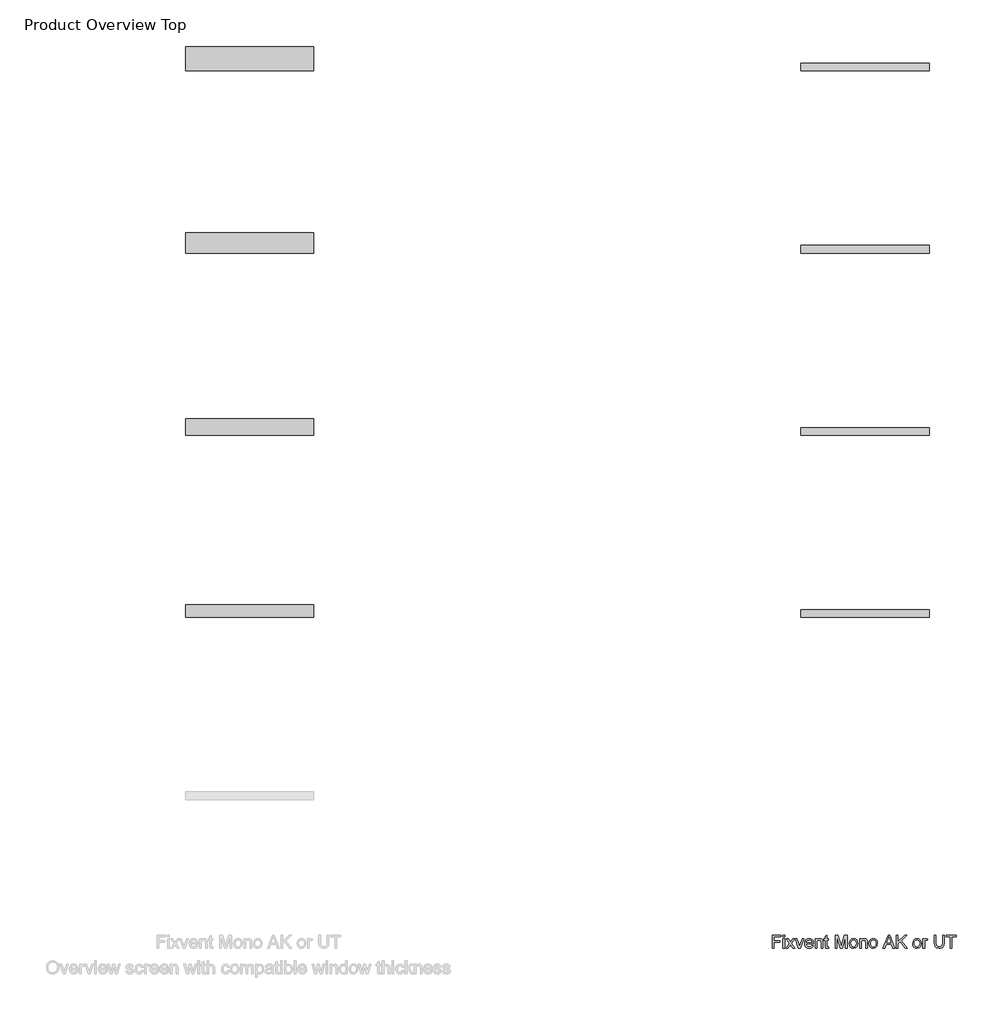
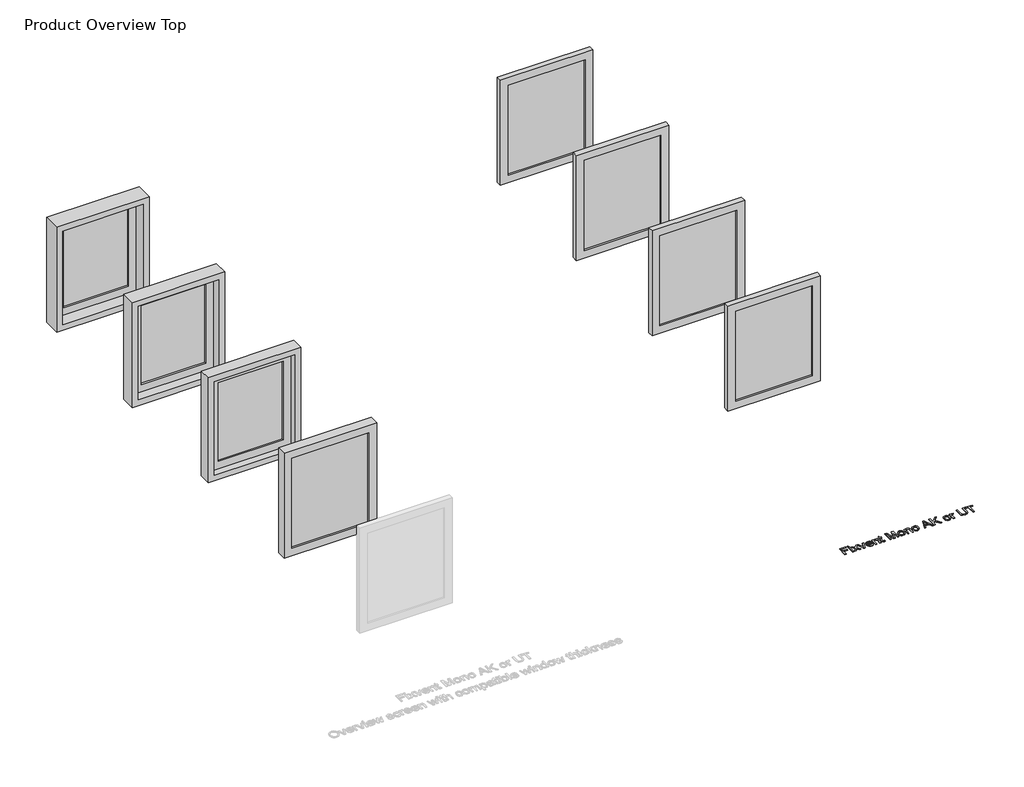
# One storey, part 3 of 3: 9 proxies.
"""IFC4 building model written with IfcOpenShell, lengths in millimetres."""

from ifc_helpers import new_model, si_unit, origin, origin_with_axes, place, context, project, spatial, polyline, outline, extrude, transform, mapped, element, save
from components import generic_models_217476fc, generic_models_e17e140e, generic_models_749d0f3b, generic_models_d7281dfd, l_40027175

model = new_model("IFC4")

# Units and contexts
model_context = context("Model", 3, world=origin())
ifc_project = project(units=[si_unit("LENGTHUNIT", "METRE", prefix="MILLI")], contexts=[model_context])

# Site, building, storey
site = spatial("IfcSite", under=ifc_project)
building = spatial("IfcBuilding", under=site)
storey = spatial("IfcBuildingStorey", under=building, Name="Product Overview Top", Elevation=0.0)

# Proxies
placement = place(None, origin())
generic_models_shape = generic_models_217476fc(model_context)
element("IfcBuildingElementProxy", 1, Name="Renson_Fixvent_Window_SimpleFrame_Gen - M : Renson_Fixvent_Window_SimpleFrame_Gen", ObjectType="Renson_Fixvent_Window_SimpleFrame_Gen - M : Renson_Fixvent_Window_SimpleFrame_Gen", at=placement, inside=storey, context=model_context, shape_type="MappedRepresentation", body=[
    mapped(generic_models_shape, transform((-2721.5461115, 54.0054477, -855.0), x_axis=(1.0, 0.0, 0.0), y_axis=(0.0, 1.0, 0.0), z_axis=(0.0, 0.0, 1.0))),
])
generic_models_2_shape = generic_models_e17e140e(model_context)
element("IfcBuildingElementProxy", 2, Name="Renson_Fixvent_Window_SimpleFrame_Gen - L : Renson_Fixvent_Window_SimpleFrame_Gen", ObjectType="Renson_Fixvent_Window_SimpleFrame_Gen - L : Renson_Fixvent_Window_SimpleFrame_Gen", at=placement, inside=storey, context=model_context, shape_type="MappedRepresentation", body=[
    mapped(generic_models_2_shape, transform((-2721.5461115, 1473.859272, -855.0), x_axis=(1.0, 0.0, 0.0), y_axis=(0.0, 1.0, 0.0), z_axis=(0.0, 0.0, 1.0))),
])
generic_models_3_shape = generic_models_749d0f3b(model_context)
element("IfcBuildingElementProxy", 3, Name="Renson_Fixvent_Window_SimpleFrame_Gen - XL : Renson_Fixvent_Window_SimpleFrame_Gen", ObjectType="Renson_Fixvent_Window_SimpleFrame_Gen - XL : Renson_Fixvent_Window_SimpleFrame_Gen", at=placement, inside=storey, context=model_context, shape_type="MappedRepresentation", body=[
    mapped(generic_models_3_shape, transform((-2721.5461115, 2893.7130963, -855.0), x_axis=(1.0, 0.0, 0.0), y_axis=(0.0, 1.0, 0.0), z_axis=(0.0, 0.0, 1.0))),
])
generic_models_4_shape = generic_models_d7281dfd(model_context)
element("IfcBuildingElementProxy", 4, Name="Renson_Fixvent_Window_SimpleFrame_Gen - XXL : Renson_Fixvent_Window_SimpleFrame_Gen", ObjectType="Renson_Fixvent_Window_SimpleFrame_Gen - XXL : Renson_Fixvent_Window_SimpleFrame_Gen", at=placement, inside=storey, context=model_context, shape_type="MappedRepresentation", body=[
    mapped(generic_models_4_shape, transform((-2721.5461115, 4313.5669207, -855.0), x_axis=(1.0, 0.0, 0.0), y_axis=(0.0, 1.0, 0.0), z_axis=(0.0, 0.0, 1.0))),
])
element("IfcBuildingElementProxy", 5, Name="100mm Arial", ObjectType="100mm Arial", at=placement, inside=storey, context=model_context, shape_type="SweptSolid", body=[
    extrude(outline(polyline([(1355.7427225, -2523.9021098), (1355.7427225, -2423.4457997), (1423.2368059, -2423.4457997), (1423.2368059, -2436.0028384), (1368.2997613, -2436.0028384), (1368.2997613, -2465.8258055), (1415.3886567, -2465.8258055), (1415.3886567, -2478.3828443), (1368.2997613, -2478.3828443), (1368.2997613, -2523.9021098), (1355.7427225, -2523.9021098)])), origin_with_axes(), (0.0, 0.0, 1.0), 5.0),
    extrude(outline(polyline([(1438.9331044, -2523.9021098), (1438.9331044, -2450.129507), (1451.4901431, -2450.129507), (1451.4901431, -2523.9021098), (1438.9331044, -2523.9021098)])), origin_with_axes(), (0.0, 0.0, 1.0), 5.0),
    extrude(outline(polyline([(1438.9331044, -2436.0028384), (1438.9331044, -2423.4457997), (1451.4901431, -2423.4457997), (1451.4901431, -2436.0028384), (1438.9331044, -2436.0028384)])), origin_with_axes(), (0.0, 0.0, 1.0), 5.0),
    extrude(outline(polyline([(1462.4775521, -2523.9021098), (1489.3084122, -2486.8196047), (1464.0471819, -2450.129507), (1479.1548692, -2450.129507), (1491.3440259, -2467.7878428), (1497.0339341, -2476.1265014), (1501.9635529, -2469.3084217), (1515.8449668, -2450.129507), (1530.9526541, -2450.129507), (1504.4160995, -2486.8196047), (1529.9716354, -2523.9021098), (1514.8639482, -2523.9021098), (1499.4864808, -2501.6084609), (1496.6660521, -2497.5372335), (1477.5852393, -2523.9021098), (1462.4775521, -2523.9021098)])), origin_with_axes(), (0.0, 0.0, 1.0), 5.0),
    extrude(outline(polyline([(1559.0588385, -2523.9021098), (1533.1108951, -2450.129507), (1546.4036979, -2450.129507), (1562.1245218, -2494.3243974), (1566.8579368, -2509.18683), (1571.49325, -2495.1582633), (1587.3121758, -2450.129507), (1600.6049785, -2450.129507), (1574.9758662, -2523.9021098), (1559.0588385, -2523.9021098)])), origin_with_axes(), (0.0, 0.0, 1.0), 5.0),
    extrude(outline(polyline([(1663.2430196, -2501.927292), (1675.5548037, -2503.4969218), (1671.1187599, -2512.7736795), (1664.0400972, -2519.7082551), (1654.478231, -2524.0308685), (1642.5925769, -2525.4717397), (1627.858903, -2522.9854705), (1616.5220062, -2515.5266631), (1609.293125, -2503.5796953), (1606.8834979, -2487.6289451), (1609.3176504, -2471.1417003), (1616.620108, -2458.8115221), (1627.8037207, -2451.1227884), (1641.8813384, -2448.5598772), (1655.5205633, -2451.1166571), (1666.4190675, -2458.7869967), (1673.5651752, -2471.0926494), (1675.9472111, -2487.5553687), (1675.8736347, -2490.939883), (1619.4405367, -2490.939883), (1621.6141061, -2500.339268), (1626.6632865, -2507.2493182), (1633.9504157, -2511.4983552), (1642.8378316, -2512.9147009), (1655.1496157, -2510.290476), (1663.2430196, -2501.927292)]), holes=[polyline([(1619.4405367, -2478.3828443), (1663.3901724, -2478.3828443), (1658.3624518, -2467.0030279), (1651.0416001, -2462.588444), (1641.8322874, -2461.116916), (1626.3689809, -2465.8135428), (1621.5037415, -2471.3041816), (1619.4405367, -2478.3828443)])]), origin_with_axes(), (0.0, 0.0, 1.0), 5.0),
    extrude(outline(polyline([(1688.5042499, -2523.9021098), (1688.5042499, -2450.129507), (1701.0612887, -2450.129507), (1701.0612887, -2460.4302029), (1710.6630087, -2451.5274586), (1723.7718705, -2448.5598772), (1735.6299335, -2450.9511102), (1743.7233374, -2457.2296296), (1747.4879965, -2466.4634676), (1748.150184, -2478.6035735), (1748.150184, -2523.9021098), (1735.5931453, -2523.9021098), (1735.5931453, -2480.2958307), (1734.1461428, -2469.1857944), (1729.032583, -2463.3119452), (1720.4118816, -2461.116916), (1706.7879851, -2466.0465347), (1702.4929628, -2473.1895768), (1701.0612887, -2484.7594655), (1701.0612887, -2523.9021098), (1688.5042499, -2523.9021098)])), origin_with_axes(), (0.0, 0.0, 1.0), 5.0),
    extrude(outline(polyline([(1792.0998197, -2513.4297357), (1793.6694496, -2524.2699918), (1784.276196, -2525.4717397), (1773.7547709, -2523.387075), (1768.5063211, -2517.917896), (1766.9857422, -2503.6686001), (1766.9857422, -2462.6865458), (1757.5679631, -2462.6865458), (1757.5679631, -2450.129507), (1766.9857422, -2450.129507), (1766.9857422, -2432.2013912), (1779.542781, -2424.8192258), (1779.542781, -2450.129507), (1792.0998197, -2450.129507), (1792.0998197, -2462.6865458), (1779.542781, -2462.6865458), (1779.542781, -2503.3007181), (1780.2049686, -2509.7754412), (1782.3509469, -2512.0685723), (1786.6306407, -2512.9147009), (1792.0998197, -2513.4297357)])), origin_with_axes(), (0.0, 0.0, 1.0), 5.0),
    extrude(outline(polyline([(1845.4672345, -2523.9021098), (1845.4672345, -2423.4457997), (1867.0741704, -2423.4457997), (1887.6265112, -2494.250821), (1891.771315, -2509.0396772), (1896.2594753, -2493.0245477), (1916.4684596, -2423.4457997), (1938.0753954, -2423.4457997), (1938.0753954, -2523.9021098), (1925.5183567, -2523.9021098), (1925.5183567, -2436.0028384), (1900.2816518, -2523.9021098), (1883.2609781, -2523.9021098), (1858.0242733, -2436.0028384), (1858.0242733, -2523.9021098), (1845.4672345, -2523.9021098)])), origin_with_axes(), (0.0, 0.0, 1.0), 5.0),
    extrude(outline(polyline([(1955.3413237, -2487.0158084), (1958.0575191, -2469.228714), (1966.2061053, -2456.7268575), (1976.2738093, -2450.6016223), (1988.328076, -2448.5598772), (2001.5197112, -2451.0461464), (2012.0564647, -2458.5049538), (2018.9634491, -2470.3476884), (2021.2657773, -2485.9857388), (2017.1945499, -2508.3284387), (2005.3364869, -2520.9713166), (1988.328076, -2525.4717397), (1974.9770252, -2522.9946676), (1964.4525345, -2515.5634513), (1957.6191264, -2503.4723963), (1955.3413237, -2487.0158084)]), holes=[polyline([(1967.8983625, -2486.991283), (1969.3514964, -2498.3557709), (1973.710898, -2506.4522405), (1980.2714603, -2511.2990858), (1988.328076, -2512.9147009), (1996.3479035, -2511.2898887), (2002.896203, -2506.4154523), (2007.2556046, -2498.2116838), (2008.7087385, -2486.5988755), (2007.2464076, -2475.5654813), (2002.8594148, -2467.5793764), (1996.3019182, -2462.7325311), (1988.328076, -2461.116916), (1980.2714603, -2462.7263997), (1973.710898, -2467.5548509), (1969.3514964, -2475.6329264), (1967.8983625, -2486.991283)])]), origin_with_axes(), (0.0, 0.0, 1.0), 5.0),
    extrude(outline(polyline([(2035.3924459, -2523.9021098), (2035.3924459, -2450.129507), (2047.9494846, -2450.129507), (2047.9494846, -2460.4302029), (2057.5512047, -2451.5274586), (2070.6600665, -2448.5598772), (2082.5181295, -2450.9511102), (2090.6115334, -2457.2296296), (2094.3761924, -2466.4634676), (2095.03838, -2478.6035735), (2095.03838, -2523.9021098), (2082.4813413, -2523.9021098), (2082.4813413, -2480.2958307), (2081.0343387, -2469.1857944), (2075.920779, -2463.3119452), (2067.3000776, -2461.116916), (2053.676181, -2466.0465347), (2049.3811587, -2473.1895768), (2047.9494846, -2484.7594655), (2047.9494846, -2523.9021098), (2035.3924459, -2523.9021098)])), origin_with_axes(), (0.0, 0.0, 1.0), 5.0),
    extrude(outline(polyline([(2109.1650486, -2487.0158084), (2111.881244, -2469.228714), (2120.0298302, -2456.7268575), (2130.0975342, -2450.6016223), (2142.1518009, -2448.5598772), (2155.3434361, -2451.0461464), (2165.8801896, -2458.5049538), (2172.787174, -2470.3476884), (2175.0895022, -2485.9857388), (2171.0182748, -2508.3284387), (2159.1602118, -2520.9713166), (2142.1518009, -2525.4717397), (2128.8007501, -2522.9946676), (2118.2762594, -2515.5634513), (2111.4428513, -2503.4723963), (2109.1650486, -2487.0158084)]), holes=[polyline([(2121.7220874, -2486.991283), (2123.1752213, -2498.3557709), (2127.5346229, -2506.4522405), (2134.0951852, -2511.2990858), (2142.1518009, -2512.9147009), (2150.1716284, -2511.2898887), (2156.7199279, -2506.4154523), (2161.0793295, -2498.2116838), (2162.5324634, -2486.5988755), (2161.0701325, -2475.5654813), (2156.6831397, -2467.5793764), (2150.1256431, -2462.7325311), (2142.1518009, -2461.116916), (2134.0951852, -2462.7263997), (2127.5346229, -2467.5548509), (2123.1752213, -2475.6329264), (2121.7220874, -2486.991283)])]), origin_with_axes(), (0.0, 0.0, 1.0), 5.0),
    extrude(outline(polyline([(2218.3278993, -2523.9021098), (2258.4270368, -2423.4457997), (2269.1201401, -2423.4457997), (2309.2192776, -2523.9021098), (2295.9510003, -2523.9021098), (2284.4485566, -2492.5095129), (2243.0740949, -2492.5095129), (2231.5961766, -2523.9021098), (2218.3278993, -2523.9021098)]), holes=[polyline([(2247.6848826, -2479.9524741), (2279.8622944, -2479.9524741), (2270.8123973, -2455.2553295), (2263.7735885, -2436.0028384), (2257.5195946, -2453.0970885), (2247.6848826, -2479.9524741)])]), origin_with_axes(), (0.0, 0.0, 1.0), 5.0),
    extrude(outline(polyline([(2322.6347077, -2523.9021098), (2322.6347077, -2423.4457997), (2335.1917465, -2423.4457997), (2335.1917465, -2472.6193597), (2386.6952258, -2423.4457997), (2404.2554597, -2423.4457997), (2361.0170625, -2464.746685), (2405.8250896, -2523.9021098), (2390.4721476, -2523.9021098), (2352.1143183, -2473.2324963), (2335.1917465, -2489.3702532), (2335.1917465, -2523.9021098), (2322.6347077, -2523.9021098)])), origin_with_axes(), (0.0, 0.0, 1.0), 5.0),
    extrude(outline(polyline([(2449.7747252, -2487.0158084), (2452.4909206, -2469.228714), (2460.6395068, -2456.7268575), (2470.7072108, -2450.6016223), (2482.7614775, -2448.5598772), (2495.9531127, -2451.0461464), (2506.4898662, -2458.5049538), (2513.3968506, -2470.3476884), (2515.6991788, -2485.9857388), (2511.6279514, -2508.3284387), (2499.7698884, -2520.9713166), (2482.7614775, -2525.4717397), (2469.4104267, -2522.9946676), (2458.885936, -2515.5634513), (2452.0525279, -2503.4723963), (2449.7747252, -2487.0158084)]), holes=[polyline([(2462.331764, -2486.991283), (2463.7848979, -2498.3557709), (2468.1442995, -2506.4522405), (2474.7048618, -2511.2990858), (2482.7614775, -2512.9147009), (2490.781305, -2511.2898887), (2497.3296045, -2506.4154523), (2501.6890061, -2498.2116838), (2503.14214, -2486.5988755), (2501.6798091, -2475.5654813), (2497.2928163, -2467.5793764), (2490.7353197, -2462.7325311), (2482.7614775, -2461.116916), (2474.7048618, -2462.7263997), (2468.1442995, -2467.5548509), (2463.7848979, -2475.6329264), (2462.331764, -2486.991283)])]), origin_with_axes(), (0.0, 0.0, 1.0), 5.0),
    extrude(outline(polyline([(2529.8258474, -2523.9021098), (2529.8258474, -2450.129507), (2540.8132563, -2450.129507), (2540.8132563, -2461.0433396), (2548.6123546, -2450.9878984), (2556.4605038, -2448.5598772), (2569.0665936, -2452.4349009), (2564.8727388, -2463.6920899), (2556.0435709, -2461.116916), (2548.9434484, -2463.5939881), (2544.4184999, -2470.4611186), (2542.3828862, -2485.1273475), (2542.3828862, -2523.9021098), (2529.8258474, -2523.9021098)])), origin_with_axes(), (0.0, 0.0, 1.0), 5.0),
    extrude(outline(polyline([(2683.6495723, -2423.4457997), (2696.2066111, -2423.4457997), (2696.2066111, -2481.3994766), (2692.7975713, -2505.4221709), (2680.5103126, -2519.8921961), (2670.246405, -2524.0768538), (2657.2111196, -2525.4717397), (2634.2675458, -2520.6156973), (2626.6278631, -2514.6713374), (2621.5388288, -2506.5503424), (2617.7251188, -2481.3994766), (2617.7251188, -2423.4457997), (2630.2821575, -2423.4457997), (2630.2821575, -2480.9580182), (2632.7592296, -2500.1001447), (2641.2695665, -2509.5792375), (2656.0338972, -2512.9147009), (2668.8055338, -2511.2653633), (2677.2974765, -2506.3173504), (2682.0615484, -2496.6788422), (2683.6495723, -2480.9580182), (2683.6495723, -2423.4457997)])), origin_with_axes(), (0.0, 0.0, 1.0), 5.0),
    extrude(outline(polyline([(2743.2955065, -2523.9021098), (2743.2955065, -2436.0028384), (2710.3332797, -2436.0028384), (2710.3332797, -2423.4457997), (2788.814772, -2423.4457997), (2788.814772, -2436.0028384), (2755.8525452, -2436.0028384), (2755.8525452, -2523.9021098), (2743.2955065, -2523.9021098)])), origin_with_axes(), (0.0, 0.0, 1.0), 5.0),
])
l_shape = l_40027175(model_context)
element("IfcBuildingElementProxy", 6, Name="Renson_Fixvent_Window_SimpleFrame_Gen : L", ObjectType="Renson_Fixvent_Window_SimpleFrame_Gen : L", at=placement, inside=storey, context=model_context, shape_type="MappedRepresentation", body=[
    mapped(l_shape, transform((2078.4538885, 1473.859272, -855.0), x_axis=(1.0, 0.0, 0.0), y_axis=(0.0, 1.0, 0.0), z_axis=(0.0, 0.0, 1.0))),
])
element("IfcBuildingElementProxy", 7, Name="Renson_Fixvent_Window_SimpleFrame_Gen : M", ObjectType="Renson_Fixvent_Window_SimpleFrame_Gen : M", at=placement, inside=storey, context=model_context, shape_type="MappedRepresentation", body=[
    mapped(l_shape, transform((2078.4538885, 54.0054477, -855.0), x_axis=(1.0, 0.0, 0.0), y_axis=(0.0, 1.0, 0.0), z_axis=(0.0, 0.0, 1.0))),
])
element("IfcBuildingElementProxy", 8, Name="Renson_Fixvent_Window_SimpleFrame_Gen : XL", ObjectType="Renson_Fixvent_Window_SimpleFrame_Gen : XL", at=placement, inside=storey, context=model_context, shape_type="MappedRepresentation", body=[
    mapped(l_shape, transform((2078.4538885, 2893.7130963, -855.0), x_axis=(1.0, 0.0, 0.0), y_axis=(0.0, 1.0, 0.0), z_axis=(0.0, 0.0, 1.0))),
])
element("IfcBuildingElementProxy", 9, Name="Renson_Fixvent_Window_SimpleFrame_Gen : XXL", ObjectType="Renson_Fixvent_Window_SimpleFrame_Gen : XXL", at=placement, inside=storey, context=model_context, shape_type="MappedRepresentation", body=[
    mapped(l_shape, transform((2078.4538885, 4313.5669207, -855.0), x_axis=(1.0, 0.0, 0.0), y_axis=(0.0, 1.0, 0.0), z_axis=(0.0, 0.0, 1.0))),
])

save(model, "model.ifc")
